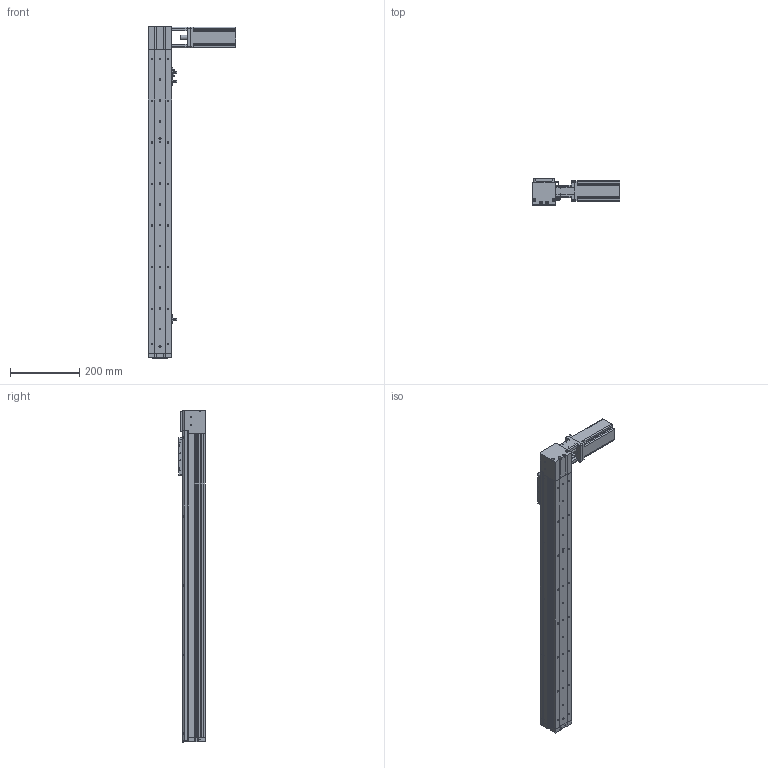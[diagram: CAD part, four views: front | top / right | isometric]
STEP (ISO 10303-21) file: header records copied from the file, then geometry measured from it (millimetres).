
FILE_DESCRIPTION (( 'STEP AP214' ), '1' );
FILE_NAME ('KSD68BS-S700-MRT-CR.STEP', '2019-08-27T07:05:05', ( '微软用户' ), ( '微软中国' ), 'SwSTEP 2.0', 'SolidWorks 2014', '' );
FILE_SCHEMA (( 'AUTOMOTIVE_DESIGN' ));
Length unit declared in the file: millimetre
Products named in the file (13): KSD68BS 700行程盖板全封闭; 68宽单导轨全封闭丝杆传动安装板1防护罩; 100遵鎮湛假蚾啣1; KSD68BS-S700-MRT-CR; 68单导轨全封闭同步带安装板; 68宽单导轨全封闭同步带端板; KSD68BS 700行程底板全封闭; KSD68BS 700行程侧板全封闭; 感应片68宽全封闭; U倰嫖萇EEㄜSX672; 台达ECMA－C20604AS伺服电机（400W); 68遵裔啣揤啣1; 68单导轨全封闭同步带电机座左
Assembly tree (16 placements, depth 2):
  KSD68BS-S700-MRT-CR
    KSD68BS 700行程底板全封闭
    台达ECMA－C20604AS伺服电机（400W)
    U倰嫖萇EEㄜSX672  x3
    感应片68宽全封闭
    68单导轨全封闭同步带安装板
    68单导轨全封闭同步带电机座左
    68宽单导轨全封闭同步带端板
    KSD68BS 700行程侧板全封闭  x2
    68宽单导轨全封闭丝杆传动安装板1防护罩
    68遵裔啣揤啣1  x2
    KSD68BS 700行程盖板全封闭
    100遵鎮湛假蚾啣1
Bounding box: 252.7 x 77 x 958.1 mm (x, y, z)
Volume: 2080810 mm3; surface area: 743106.7 mm2
Topology: 17 solids, 17 shells, 1397 faces, 3962 edges, 2536 vertices
Faces by surface type: cylinder 647, plane 598, cone 152
Entity records: 43982 total; most frequent: CARTESIAN_POINT 7495, DIRECTION 6543, ORIENTED_EDGE 6268, EDGE_CURVE 3134, AXIS2_PLACEMENT_3D 2352, VERTEX_POINT 2054, LINE 1839, VECTOR 1839
